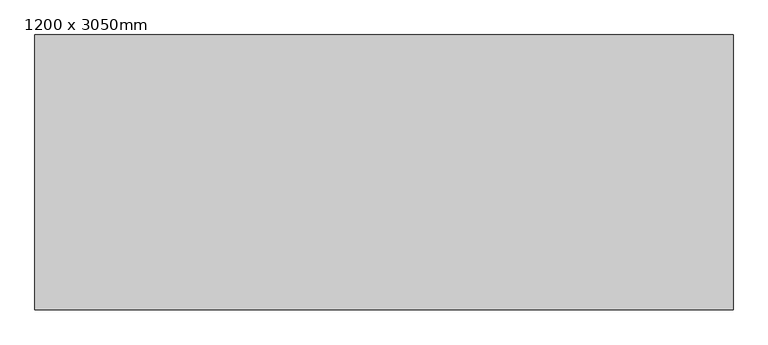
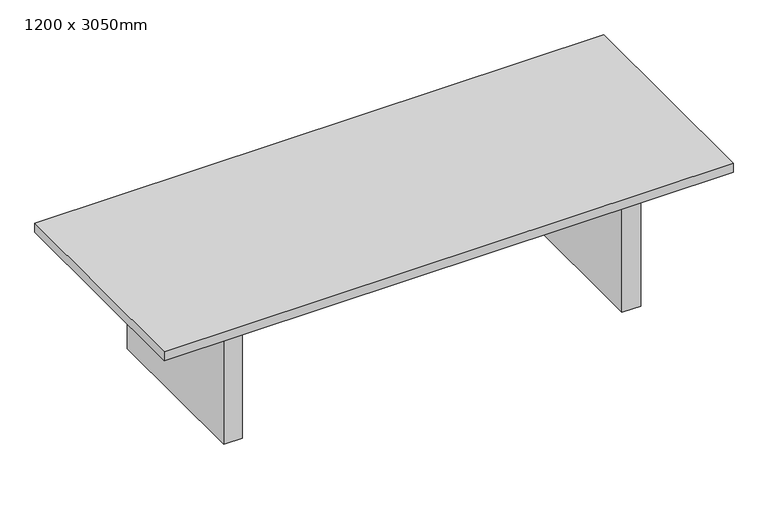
"""IFC4 building model written with IfcOpenShell, lengths in millimetres: furniture geometry, Konf.stul : 1200 x 3050mm."""

from ifc_helpers import new_model, si_unit, frame, origin, origin_with_axes, place, context, project, spatial, polyline, outline, extrude, source, transform, mapped, element, save


def furniture_1200_x_3050mm_930714f4(model_context):
    return source(origin(), model_context, "Body", "SweptSolid", [
        extrude(outline(polyline([(1017.0, 447.6), (1017.0, 409.5), (-1017.0, 409.5), (-1017.0, 447.6), (1017.0, 447.6)])), frame((0.0, 0.0, 607.6), z_axis=(0.0, 0.0, 1.0), x_axis=(1.0, 0.0, 0.0)), (0.0, 0.0, 1.0), 101.6),
        extrude(outline(polyline([(1017.0, -447.6), (-1017.0, -447.6), (-1017.0, -409.5), (1017.0, -409.5), (1017.0, -447.6)])), frame((0.0, 0.0, 607.6), z_axis=(0.0, 0.0, 1.0), x_axis=(1.0, 0.0, 0.0)), (0.0, 0.0, 1.0), 101.6),
        extrude(outline(polyline([(-1017.0, -447.6), (-1118.6, -447.6), (-1118.6, 447.6), (-1017.0, 447.6), (-1017.0, -447.6)])), origin_with_axes(), (0.0, 0.0, 1.0), 709.2),
        extrude(outline(polyline([(1118.6, -447.6), (1017.0, -447.6), (1017.0, 447.6), (1118.6, 447.6), (1118.6, -447.6)])), origin_with_axes(), (0.0, 0.0, 1.0), 709.2),
        extrude(outline(polyline([(1525.0, -600.0), (-1525.0, -600.0), (-1525.0, 600.0), (1525.0, 600.0), (1525.0, -600.0)])), frame((0.0, 0.0, 709.2), z_axis=(0.0, 0.0, 1.0), x_axis=(1.0, 0.0, 0.0)), (0.0, 0.0, 1.0), 50.8),
    ])


if __name__ == "__main__":
    model = new_model("IFC4")
    model_context = context("Model", 3, world=origin())
    ifc_project = project(units=[si_unit("LENGTHUNIT", "METRE", prefix="MILLI")], contexts=[model_context])
    site = spatial("IfcSite", under=ifc_project)
    building = spatial("IfcBuilding", under=site)
    placement = place(None, origin())
    furniture_1200_x_3050mm_shape = furniture_1200_x_3050mm_930714f4(model_context)
    element("IfcFurniture", 1, ObjectType="Konf.stul : 1200 x 3050mm", at=placement, inside=building, context=model_context, shape_type="MappedRepresentation", body=[
        mapped(furniture_1200_x_3050mm_shape, transform((0.0, 0.0, 0.0), x_axis=(1.0, 0.0, 0.0), y_axis=(0.0, 1.0, 0.0), z_axis=(0.0, 0.0, 1.0))),
    ])
    save(model, "model.ifc")
